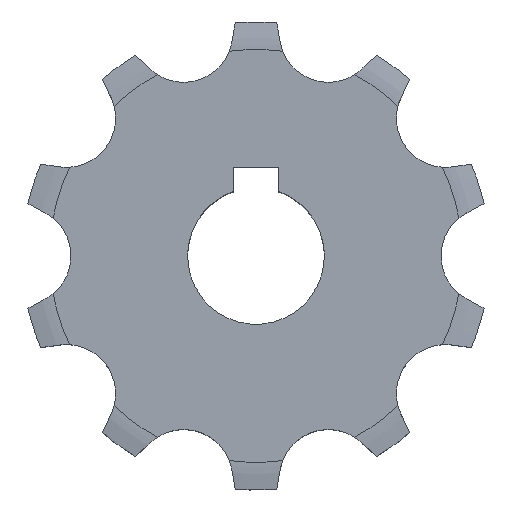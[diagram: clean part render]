
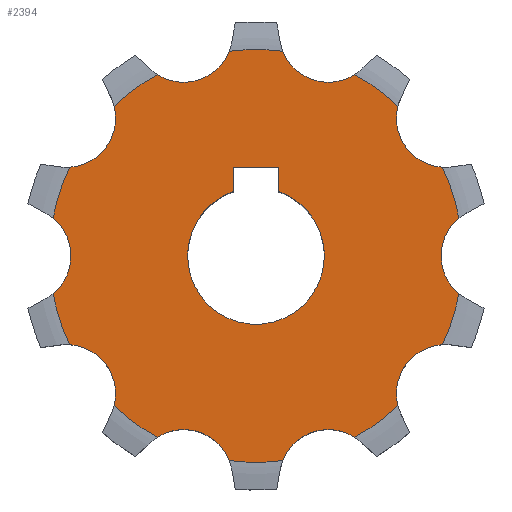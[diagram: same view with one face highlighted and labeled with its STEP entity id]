
A CAD part, top view. The second image highlights one B-rep face of the part: STEP entity #2394.
In plain terms, the highlighted planar face has unit normal (0, 0, 1).
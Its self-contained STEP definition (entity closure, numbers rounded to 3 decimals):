
#33=CARTESIAN_POINT('',(6.35,19.543,3.6));
#34=DIRECTION('',(0.,0.,1.));
#35=DIRECTION('',(-0.931,-0.366,0.));
#36=AXIS2_PLACEMENT_3D('',#33,#34,#35);
#42=CARTESIAN_POINT('',(0.,0.,3.6));
#43=DIRECTION('',(0.,0.,-1.));
#44=DIRECTION('',(0.478,0.878,0.));
#45=AXIS2_PLACEMENT_3D('',#42,#43,#44);
#50=CARTESIAN_POINT('',(16.625,12.078,3.6));
#51=DIRECTION('',(0.,0.,1.));
#52=DIRECTION('',(-0.968,0.251,0.));
#53=AXIS2_PLACEMENT_3D('',#50,#51,#52);
#58=CARTESIAN_POINT('',(0.,0.,3.6));
#59=DIRECTION('',(0.,0.,-1.));
#60=DIRECTION('',(0.903,0.43,0.));
#61=AXIS2_PLACEMENT_3D('',#58,#59,#60);
#66=CARTESIAN_POINT('',(20.549,0.,3.6));
#67=DIRECTION('',(0.,0.,1.));
#68=DIRECTION('',(-0.636,0.772,0.));
#69=AXIS2_PLACEMENT_3D('',#66,#67,#68);
#74=CARTESIAN_POINT('',(0.,0.,3.6));
#75=DIRECTION('',(0.,0.,-1.));
#76=DIRECTION('',(0.983,-0.183,0.));
#77=AXIS2_PLACEMENT_3D('',#74,#75,#76);
#82=CARTESIAN_POINT('',(16.625,-12.078,3.6));
#83=DIRECTION('',(0.,0.,1.));
#84=DIRECTION('',(-0.06,0.998,0.));
#85=AXIS2_PLACEMENT_3D('',#82,#83,#84);
#90=CARTESIAN_POINT('',(0.,0.,3.6));
#91=DIRECTION('',(0.,0.,-1.));
#92=DIRECTION('',(0.688,-0.726,0.));
#93=AXIS2_PLACEMENT_3D('',#90,#91,#92);
#98=CARTESIAN_POINT('',(6.35,-19.543,3.6));
#99=DIRECTION('',(0.,0.,1.));
#100=DIRECTION('',(0.538,0.843,0.));
#101=AXIS2_PLACEMENT_3D('',#98,#99,#100);
#106=CARTESIAN_POINT('',(-6.35,-19.543,3.6));
#107=DIRECTION('',(0.,0.,1.));
#108=DIRECTION('',(0.931,0.366,0.));
#109=AXIS2_PLACEMENT_3D('',#106,#107,#108);
#114=CARTESIAN_POINT('',(0.,0.,3.6));
#115=DIRECTION('',(0.,0.,-1.));
#116=DIRECTION('',(-0.478,-0.878,0.));
#117=AXIS2_PLACEMENT_3D('',#114,#115,#116);
#122=CARTESIAN_POINT('',(-16.625,-12.078,3.6));
#123=DIRECTION('',(0.,0.,1.));
#124=DIRECTION('',(0.968,-0.251,0.));
#125=AXIS2_PLACEMENT_3D('',#122,#123,#124);
#130=CARTESIAN_POINT('',(0.,0.,3.6));
#131=DIRECTION('',(0.,0.,-1.));
#132=DIRECTION('',(-0.903,-0.43,0.));
#133=AXIS2_PLACEMENT_3D('',#130,#131,#132);
#138=CARTESIAN_POINT('',(-20.549,0.,3.6));
#139=DIRECTION('',(0.,0.,1.));
#140=DIRECTION('',(0.636,-0.772,0.));
#141=AXIS2_PLACEMENT_3D('',#138,#139,#140);
#146=CARTESIAN_POINT('',(0.,0.,3.6));
#147=DIRECTION('',(0.,0.,-1.));
#148=DIRECTION('',(-0.983,0.183,0.));
#149=AXIS2_PLACEMENT_3D('',#146,#147,#148);
#154=CARTESIAN_POINT('',(-16.625,12.078,3.6));
#155=DIRECTION('',(0.,0.,1.));
#156=DIRECTION('',(0.06,-0.998,0.));
#157=AXIS2_PLACEMENT_3D('',#154,#155,#156);
#162=CARTESIAN_POINT('',(0.,0.,3.6));
#163=DIRECTION('',(0.,0.,-1.));
#164=DIRECTION('',(-0.688,0.726,0.));
#165=AXIS2_PLACEMENT_3D('',#162,#163,#164);
#170=CARTESIAN_POINT('',(-6.35,19.543,3.6));
#171=DIRECTION('',(0.,0.,1.));
#172=DIRECTION('',(-0.538,-0.843,0.));
#173=AXIS2_PLACEMENT_3D('',#170,#171,#172);
#178=DIRECTION('',(0.,1.,0.));
#179=VECTOR('',#178,2.143);
#180=CARTESIAN_POINT('',(2.,5.657,3.6));
#181=LINE('',#180,#179);
#185=DIRECTION('',(-1.,0.,0.));
#186=VECTOR('',#185,4.);
#187=CARTESIAN_POINT('',(2.,7.8,3.6));
#188=LINE('',#187,#186);
#192=DIRECTION('',(0.,-1.,0.));
#193=VECTOR('',#192,2.143);
#194=CARTESIAN_POINT('',(-2.,7.8,3.6));
#195=LINE('',#194,#193);
#231=CARTESIAN_POINT('',(0.,0.,3.6));
#232=DIRECTION('',(0.,0.,1.));
#233=DIRECTION('',(0.13,0.992,0.));
#234=AXIS2_PLACEMENT_3D('',#231,#232,#233);
#255=CARTESIAN_POINT('',(0.,0.,3.6));
#256=DIRECTION('',(0.,0.,1.));
#257=DIRECTION('',(-0.13,-0.992,0.));
#258=AXIS2_PLACEMENT_3D('',#255,#256,#257);
#1164=CARTESIAN_POINT('',(0.,0.,3.6));
#1165=DIRECTION('',(0.,0.,-1.));
#1166=DIRECTION('',(0.333,0.943,0.));
#1167=AXIS2_PLACEMENT_3D('',#1164,#1165,#1166);
#1356=CARTESIAN_POINT('',(2.35,17.971,3.6));
#1772=CARTESIAN_POINT('',(-2.35,-17.971,3.6));
#2079=CARTESIAN_POINT('',(8.662,15.92,3.6));
#2080=CARTESIAN_POINT('',(12.465,13.158,3.6));
#2081=VERTEX_POINT('',#2079);
#2082=VERTEX_POINT('',#2080);
#2083=CARTESIAN_POINT('',(16.365,7.789,3.6));
#2084=CARTESIAN_POINT('',(17.818,3.318,3.6));
#2085=VERTEX_POINT('',#2083);
#2086=VERTEX_POINT('',#2084);
#2087=CARTESIAN_POINT('',(17.818,-3.318,3.6));
#2088=CARTESIAN_POINT('',(16.365,-7.789,3.6));
#2089=VERTEX_POINT('',#2087);
#2090=VERTEX_POINT('',#2088);
#2091=CARTESIAN_POINT('',(-8.662,-15.92,3.6));
#2092=CARTESIAN_POINT('',(-12.465,-13.158,3.6));
#2093=VERTEX_POINT('',#2091);
#2094=VERTEX_POINT('',#2092);
#2095=CARTESIAN_POINT('',(-16.365,-7.789,3.6));
#2096=CARTESIAN_POINT('',(-17.818,-3.318,3.6));
#2097=VERTEX_POINT('',#2095);
#2098=VERTEX_POINT('',#2096);
#2099=CARTESIAN_POINT('',(-17.818,3.318,3.6));
#2100=CARTESIAN_POINT('',(-16.365,7.789,3.6));
#2101=VERTEX_POINT('',#2099);
#2102=VERTEX_POINT('',#2100);
#2128=VERTEX_POINT('',#1356);
#2144=VERTEX_POINT('',#1772);
#2155=CARTESIAN_POINT('',(12.465,-13.158,3.6));
#2156=VERTEX_POINT('',#2155);
#2159=CARTESIAN_POINT('',(8.662,-15.92,3.6));
#2160=CARTESIAN_POINT('',(2.35,-17.971,3.6));
#2161=VERTEX_POINT('',#2159);
#2162=VERTEX_POINT('',#2160);
#2183=CARTESIAN_POINT('',(-12.465,13.158,3.6));
#2184=CARTESIAN_POINT('',(-8.662,15.92,3.6));
#2185=VERTEX_POINT('',#2183);
#2186=VERTEX_POINT('',#2184);
#2203=CARTESIAN_POINT('',(-2.35,17.971,3.6));
#2204=VERTEX_POINT('',#2203);
#2299=CARTESIAN_POINT('',(2.,5.657,3.6));
#2300=VERTEX_POINT('',#2299);
#2301=CARTESIAN_POINT('',(-2.,5.657,3.6));
#2302=VERTEX_POINT('',#2301);
#2303=CARTESIAN_POINT('',(2.,7.8,3.6));
#2304=VERTEX_POINT('',#2303);
#2305=CARTESIAN_POINT('',(-2.,7.8,3.6));
#2306=VERTEX_POINT('',#2305);
#2337=CARTESIAN_POINT('',(0.,0.,3.6));
#2338=DIRECTION('',(0.,0.,1.));
#2339=DIRECTION('',(1.,0.,0.));
#2340=AXIS2_PLACEMENT_3D('',#2337,#2338,#2339);
#2341=PLANE('',#2340);
#2343=ORIENTED_EDGE('',*,*,#2342,.F.);
#2345=ORIENTED_EDGE('',*,*,#2344,.T.);
#2347=ORIENTED_EDGE('',*,*,#2346,.T.);
#2349=ORIENTED_EDGE('',*,*,#2348,.T.);
#2351=ORIENTED_EDGE('',*,*,#2350,.T.);
#2353=ORIENTED_EDGE('',*,*,#2352,.T.);
#2355=ORIENTED_EDGE('',*,*,#2354,.T.);
#2357=ORIENTED_EDGE('',*,*,#2356,.T.);
#2359=ORIENTED_EDGE('',*,*,#2358,.T.);
#2361=ORIENTED_EDGE('',*,*,#2360,.T.);
#2363=ORIENTED_EDGE('',*,*,#2362,.F.);
#2365=ORIENTED_EDGE('',*,*,#2364,.T.);
#2367=ORIENTED_EDGE('',*,*,#2366,.T.);
#2369=ORIENTED_EDGE('',*,*,#2368,.T.);
#2371=ORIENTED_EDGE('',*,*,#2370,.T.);
#2373=ORIENTED_EDGE('',*,*,#2372,.T.);
#2375=ORIENTED_EDGE('',*,*,#2374,.T.);
#2377=ORIENTED_EDGE('',*,*,#2376,.T.);
#2379=ORIENTED_EDGE('',*,*,#2378,.T.);
#2381=ORIENTED_EDGE('',*,*,#2380,.T.);
#2382=EDGE_LOOP('',(#2343,#2345,#2347,#2349,#2351,#2353,#2355,#2357,#2359,#2361,
#2363,#2365,#2367,#2369,#2371,#2373,#2375,#2377,#2379,#2381));
#2383=FACE_OUTER_BOUND('',#2382,.F.);
#2385=ORIENTED_EDGE('',*,*,#2384,.T.);
#2387=ORIENTED_EDGE('',*,*,#2386,.T.);
#2389=ORIENTED_EDGE('',*,*,#2388,.T.);
#2391=ORIENTED_EDGE('',*,*,#2390,.F.);
#2392=EDGE_LOOP('',(#2385,#2387,#2389,#2391));
#2393=FACE_BOUND('',#2392,.F.);
#2394=ADVANCED_FACE('',(#2383,#2393),#2341,.T.);
#37=CIRCLE('',#36,4.298);
#46=CIRCLE('',#45,18.124);
#54=CIRCLE('',#53,4.298);
#62=CIRCLE('',#61,18.124);
#70=CIRCLE('',#69,4.298);
#78=CIRCLE('',#77,18.124);
#86=CIRCLE('',#85,4.298);
#94=CIRCLE('',#93,18.124);
#102=CIRCLE('',#101,4.298);
#110=CIRCLE('',#109,4.298);
#118=CIRCLE('',#117,18.124);
#126=CIRCLE('',#125,4.298);
#134=CIRCLE('',#133,18.124);
#142=CIRCLE('',#141,4.298);
#150=CIRCLE('',#149,18.124);
#158=CIRCLE('',#157,4.298);
#166=CIRCLE('',#165,18.124);
#174=CIRCLE('',#173,4.298);
#235=CIRCLE('',#234,18.124);
#259=CIRCLE('',#258,18.124);
#1168=CIRCLE('',#1167,6.);
#2342=EDGE_CURVE('',#2128,#2204,#235,.T.);
#2344=EDGE_CURVE('',#2128,#2081,#37,.T.);
#2346=EDGE_CURVE('',#2081,#2082,#46,.T.);
#2348=EDGE_CURVE('',#2082,#2085,#54,.T.);
#2350=EDGE_CURVE('',#2085,#2086,#62,.T.);
#2352=EDGE_CURVE('',#2086,#2089,#70,.T.);
#2354=EDGE_CURVE('',#2089,#2090,#78,.T.);
#2356=EDGE_CURVE('',#2090,#2156,#86,.T.);
#2358=EDGE_CURVE('',#2156,#2161,#94,.T.);
#2360=EDGE_CURVE('',#2161,#2162,#102,.T.);
#2362=EDGE_CURVE('',#2144,#2162,#259,.T.);
#2364=EDGE_CURVE('',#2144,#2093,#110,.T.);
#2366=EDGE_CURVE('',#2093,#2094,#118,.T.);
#2368=EDGE_CURVE('',#2094,#2097,#126,.T.);
#2370=EDGE_CURVE('',#2097,#2098,#134,.T.);
#2372=EDGE_CURVE('',#2098,#2101,#142,.T.);
#2374=EDGE_CURVE('',#2101,#2102,#150,.T.);
#2376=EDGE_CURVE('',#2102,#2185,#158,.T.);
#2378=EDGE_CURVE('',#2185,#2186,#166,.T.);
#2380=EDGE_CURVE('',#2186,#2204,#174,.T.);
#2384=EDGE_CURVE('',#2300,#2304,#181,.T.);
#2386=EDGE_CURVE('',#2304,#2306,#188,.T.);
#2388=EDGE_CURVE('',#2306,#2302,#195,.T.);
#2390=EDGE_CURVE('',#2300,#2302,#1168,.T.);
